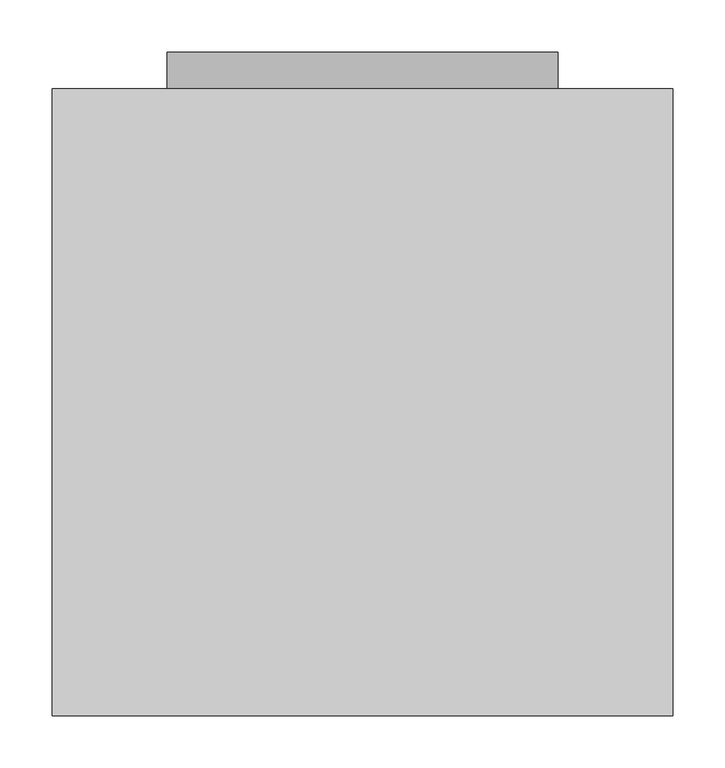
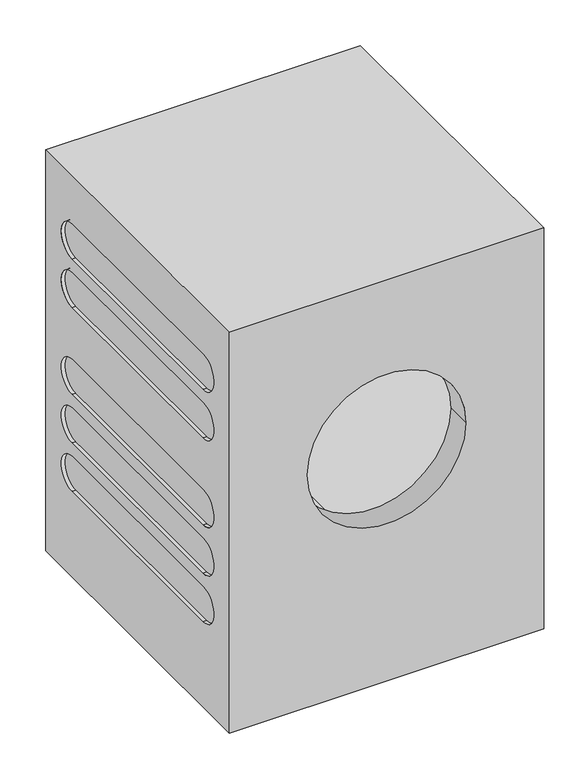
"""IFC4 building model written with IfcOpenShell, lengths in millimetres: proxy geometry, 11169830_ZER_PWM507DV_LWSpecial : 51507291_ZER_11169830_PWM507DV_LWSpecial."""

from ifc_helpers import new_model, si_unit, point, frame, frame_2d, origin, place, context, project, spatial, polyline, circle_curve, trimmed, segment, composite_curve, outline, extrude, source, transform, mapped, element, save
from ifc_brep_helpers import plane_surface, revolved_surface, advanced_brep


def specialty_equipment_5b245b4f(model_context):
    return source(origin(), model_context, "Body", "SolidModel", [
        advanced_brep(
        [(298.0, -35.0, 816.0), (298.0, -35.0, 13.5), (-298.0, -35.0, 13.5), (-298.0, -35.0, 816.0), (215.0, -35.0, 130.0), (119.0, -35.0, 130.0), (119.0, -35.0, 80.0), (215.0, -35.0, 80.0), (298.0, -637.0, 816.0), (-298.0, -637.0, 816.0), (-298.0, -637.0, 13.5), (298.0, -637.0, 13.5), (150.0, -637.0, 478.0), (-150.0, -637.0, 478.0), (298.0, -552.0, 650.0), (298.0, -552.0, 720.0), (298.0, -122.0, 720.0), (298.0, -122.0, 650.0), (298.0, -552.0, 553.0), (298.0, -552.0, 623.0), (298.0, -122.0, 623.0), (298.0, -122.0, 553.0), (298.0, -552.0, 282.0), (298.0, -552.0, 352.0), (298.0, -122.0, 352.0), (298.0, -122.0, 282.0), (298.0, -552.0, 185.0), (298.0, -552.0, 255.0), (298.0, -122.0, 255.0), (298.0, -122.0, 185.0), (298.0, -552.0, 379.0), (298.0, -552.0, 449.0), (298.0, -122.0, 449.0), (298.0, -122.0, 379.0), (-298.0, -552.0, 720.0), (-298.0, -552.0, 650.0), (-298.0, -122.0, 650.0), (-298.0, -122.0, 720.0), (-298.0, -552.0, 623.0), (-298.0, -552.0, 553.0), (-298.0, -122.0, 553.0), (-298.0, -122.0, 623.0), (-298.0, -552.0, 352.0), (-298.0, -552.0, 282.0), (-298.0, -122.0, 282.0), (-298.0, -122.0, 352.0), (-298.0, -552.0, 255.0), (-298.0, -552.0, 185.0), (-298.0, -122.0, 185.0), (-298.0, -122.0, 255.0), (-298.0, -552.0, 379.0), (-298.0, -122.0, 379.0), (-298.0, -122.0, 449.0), (-298.0, -552.0, 449.0), (-150.0, -589.0, 478.0), (150.0, -589.0, 478.0), (0.0, -200.0, 234.0), (0.0, -200.0, 722.0), (0.0, -589.0, 234.0), (0.0, -589.0, 722.0), (-291.0, -552.0, 720.0), (-291.0, -122.0, 720.0), (-291.0, -122.0, 650.0), (-291.0, -552.0, 650.0), (-291.0, -552.0, 623.0), (-291.0, -122.0, 623.0), (-291.0, -122.0, 553.0), (-291.0, -552.0, 553.0), (-291.0, -552.0, 352.0), (-291.0, -122.0, 352.0), (-291.0, -122.0, 282.0), (-291.0, -552.0, 282.0), (-291.0, -552.0, 255.0), (-291.0, -122.0, 255.0), (-291.0, -122.0, 185.0), (-291.0, -552.0, 185.0), (291.0, -552.0, 720.0), (291.0, -552.0, 650.0), (291.0, -122.0, 650.0), (291.0, -122.0, 720.0), (291.0, -552.0, 623.0), (291.0, -552.0, 553.0), (291.0, -122.0, 553.0), (291.0, -122.0, 623.0), (291.0, -552.0, 352.0), (291.0, -552.0, 282.0), (291.0, -122.0, 282.0), (291.0, -122.0, 352.0), (291.0, -552.0, 255.0), (291.0, -552.0, 185.0), (291.0, -122.0, 185.0), (291.0, -122.0, 255.0), (-291.0, -552.0, 449.0), (-291.0, -122.0, 449.0), (-291.0, -122.0, 379.0), (-291.0, -552.0, 379.0), (291.0, -552.0, 449.0), (291.0, -552.0, 379.0), (291.0, -122.0, 379.0), (291.0, -122.0, 449.0), (119.0, -152.0, 130.0), (215.0, -152.0, 130.0), (215.0, -152.0, 80.0), (119.0, -152.0, 80.0)],
        [
            (0, 1),
            (1, 2),
            (2, 3),
            (3, 0),
            (4, 5),
            (5, 6),
            (6, 7),
            (7, 4),
            (8, 9),
            (9, 10),
            (10, 11),
            (11, 8),
            (12, 13, circle_curve(frame((0.0, -637.0, 478.0), z_axis=(0.0, 1.0, 0.0), x_axis=(-1.0, 0.0, 0.0)), 150.0)),
            (13, 12, circle_curve(frame((0.0, -637.0, 478.0), z_axis=(0.0, 1.0, 0.0), x_axis=(-1.0, 0.0, 0.0)), 150.0)),
            (0, 8),
            (11, 1),
            (14, 15, circle_curve(frame((298.0, -552.0, 685.0), z_axis=(-1.0, 0.0, 0.0), x_axis=(0.0, 1.0, 0.0)), 35.0)),
            (15, 16),
            (16, 17, circle_curve(frame((298.0, -122.0, 685.0), z_axis=(-1.0, 0.0, 0.0), x_axis=(0.0, 1.0, 0.0)), 35.0)),
            (17, 14),
            (18, 19, circle_curve(frame((298.0, -552.0, 588.0), z_axis=(-1.0, 0.0, 0.0), x_axis=(0.0, 1.0, 0.0)), 35.0)),
            (19, 20),
            (20, 21, circle_curve(frame((298.0, -122.0, 588.0), z_axis=(-1.0, 0.0, 0.0), x_axis=(0.0, 1.0, 0.0)), 35.0)),
            (21, 18),
            (22, 23, circle_curve(frame((298.0, -552.0, 317.0), z_axis=(-1.0, 0.0, 0.0), x_axis=(0.0, 1.0, 0.0)), 35.0)),
            (23, 24),
            (24, 25, circle_curve(frame((298.0, -122.0, 317.0), z_axis=(-1.0, 0.0, 0.0), x_axis=(0.0, 1.0, 0.0)), 35.0)),
            (25, 22),
            (26, 27, circle_curve(frame((298.0, -552.0, 220.0), z_axis=(-1.0, 0.0, 0.0), x_axis=(0.0, 1.0, 0.0)), 35.0)),
            (27, 28),
            (28, 29, circle_curve(frame((298.0, -122.0, 220.0), z_axis=(-1.0, 0.0, 0.0), x_axis=(0.0, 1.0, 0.0)), 35.0)),
            (29, 26),
            (30, 31, circle_curve(frame((298.0, -552.0, 414.0), z_axis=(-1.0, 0.0, 0.0), x_axis=(0.0, 1.0, 0.0)), 35.0)),
            (31, 32),
            (32, 33, circle_curve(frame((298.0, -122.0, 414.0), z_axis=(-1.0, 0.0, 0.0), x_axis=(0.0, 1.0, 0.0)), 35.0)),
            (33, 30),
            (10, 2),
            (9, 3),
            (34, 35, circle_curve(frame((-298.0, -552.0, 685.0), z_axis=(1.0, 0.0, 0.0), x_axis=(0.0, 1.0, 0.0)), 35.0)),
            (35, 36),
            (36, 37, circle_curve(frame((-298.0, -122.0, 685.0), z_axis=(1.0, 0.0, 0.0), x_axis=(0.0, 1.0, 0.0)), 35.0)),
            (37, 34),
            (38, 39, circle_curve(frame((-298.0, -552.0, 588.0), z_axis=(1.0, 0.0, 0.0), x_axis=(0.0, 1.0, 0.0)), 35.0)),
            (39, 40),
            (40, 41, circle_curve(frame((-298.0, -122.0, 588.0), z_axis=(1.0, 0.0, 0.0), x_axis=(0.0, 1.0, 0.0)), 35.0)),
            (41, 38),
            (42, 43, circle_curve(frame((-298.0, -552.0, 317.0), z_axis=(1.0, 0.0, 0.0), x_axis=(0.0, 1.0, 0.0)), 35.0)),
            (43, 44),
            (44, 45, circle_curve(frame((-298.0, -122.0, 317.0), z_axis=(1.0, 0.0, 0.0), x_axis=(0.0, 1.0, 0.0)), 35.0)),
            (45, 42),
            (46, 47, circle_curve(frame((-298.0, -552.0, 220.0), z_axis=(1.0, 0.0, 0.0), x_axis=(0.0, 1.0, 0.0)), 35.0)),
            (47, 48),
            (48, 49, circle_curve(frame((-298.0, -122.0, 220.0), z_axis=(1.0, 0.0, 0.0), x_axis=(0.0, 1.0, 0.0)), 35.0)),
            (49, 46),
            (50, 51),
            (51, 52, circle_curve(frame((-298.0, -122.0, 414.0), z_axis=(1.0, 0.0, 0.0), x_axis=(0.0, 1.0, 0.0)), 35.0)),
            (52, 53),
            (53, 50, circle_curve(frame((-298.0, -552.0, 414.0), z_axis=(1.0, 0.0, 0.0), x_axis=(0.0, 1.0, 0.0)), 35.0)),
            (54, 13),
            (12, 55),
            (55, 54, circle_curve(frame((0.0, -589.0, 478.0), z_axis=(0.0, 1.0, 0.0), x_axis=(-1.0, 0.0, 0.0)), 150.0)),
            (54, 55, circle_curve(frame((0.0, -589.0, 478.0), z_axis=(0.0, 1.0, 0.0), x_axis=(-1.0, 0.0, 0.0)), 150.0)),
            (56, 57, circle_curve(frame((0.0, -200.0, 478.0), z_axis=(0.0, -1.0, 0.0), x_axis=(0.0, 0.0, 1.0)), 244.0)),
            (57, 56, circle_curve(frame((0.0, -200.0, 478.0), z_axis=(0.0, -1.0, 0.0), x_axis=(0.0, 0.0, 1.0)), 244.0)),
            (58, 59, circle_curve(frame((0.0, -589.0, 478.0), z_axis=(0.0, 1.0, 0.0), x_axis=(0.0, 0.0, 1.0)), 244.0)),
            (59, 58, circle_curve(frame((0.0, -589.0, 478.0), z_axis=(0.0, 1.0, 0.0), x_axis=(0.0, 0.0, 1.0)), 244.0)),
            (56, 58),
            (59, 57),
            (60, 61),
            (61, 62, circle_curve(frame((-291.0, -122.0, 685.0), z_axis=(-1.0, 0.0, 0.0), x_axis=(0.0, 1.0, 0.0)), 35.0)),
            (62, 63),
            (63, 60, circle_curve(frame((-291.0, -552.0, 685.0), z_axis=(-1.0, 0.0, 0.0), x_axis=(0.0, 1.0, 0.0)), 35.0)),
            (64, 65),
            (65, 66, circle_curve(frame((-291.0, -122.0, 588.0), z_axis=(-1.0, 0.0, 0.0), x_axis=(0.0, 1.0, 0.0)), 35.0)),
            (66, 67),
            (67, 64, circle_curve(frame((-291.0, -552.0, 588.0), z_axis=(-1.0, 0.0, 0.0), x_axis=(0.0, 1.0, 0.0)), 35.0)),
            (68, 69),
            (69, 70, circle_curve(frame((-291.0, -122.0, 317.0), z_axis=(-1.0, 0.0, 0.0), x_axis=(0.0, 1.0, 0.0)), 35.0)),
            (70, 71),
            (71, 68, circle_curve(frame((-291.0, -552.0, 317.0), z_axis=(-1.0, 0.0, 0.0), x_axis=(0.0, 1.0, 0.0)), 35.0)),
            (72, 73),
            (73, 74, circle_curve(frame((-291.0, -122.0, 220.0), z_axis=(-1.0, 0.0, 0.0), x_axis=(0.0, 1.0, 0.0)), 35.0)),
            (74, 75),
            (75, 72, circle_curve(frame((-291.0, -552.0, 220.0), z_axis=(-1.0, 0.0, 0.0), x_axis=(0.0, 1.0, 0.0)), 35.0)),
            (63, 35),
            (34, 60),
            (62, 36),
            (61, 37),
            (67, 39),
            (38, 64),
            (66, 40),
            (65, 41),
            (71, 43),
            (42, 68),
            (70, 44),
            (69, 45),
            (75, 47),
            (46, 72),
            (74, 48),
            (73, 49),
            (76, 77, circle_curve(frame((291.0, -552.0, 685.0), z_axis=(1.0, 0.0, 0.0), x_axis=(0.0, 1.0, 0.0)), 35.0)),
            (77, 78),
            (78, 79, circle_curve(frame((291.0, -122.0, 685.0), z_axis=(1.0, 0.0, 0.0), x_axis=(0.0, 1.0, 0.0)), 35.0)),
            (79, 76),
            (80, 81, circle_curve(frame((291.0, -552.0, 588.0), z_axis=(1.0, 0.0, 0.0), x_axis=(0.0, 1.0, 0.0)), 35.0)),
            (81, 82),
            (82, 83, circle_curve(frame((291.0, -122.0, 588.0), z_axis=(1.0, 0.0, 0.0), x_axis=(0.0, 1.0, 0.0)), 35.0)),
            (83, 80),
            (84, 85, circle_curve(frame((291.0, -552.0, 317.0), z_axis=(1.0, 0.0, 0.0), x_axis=(0.0, 1.0, 0.0)), 35.0)),
            (85, 86),
            (86, 87, circle_curve(frame((291.0, -122.0, 317.0), z_axis=(1.0, 0.0, 0.0), x_axis=(0.0, 1.0, 0.0)), 35.0)),
            (87, 84),
            (88, 89, circle_curve(frame((291.0, -552.0, 220.0), z_axis=(1.0, 0.0, 0.0), x_axis=(0.0, 1.0, 0.0)), 35.0)),
            (89, 90),
            (90, 91, circle_curve(frame((291.0, -122.0, 220.0), z_axis=(1.0, 0.0, 0.0), x_axis=(0.0, 1.0, 0.0)), 35.0)),
            (91, 88),
            (76, 15),
            (14, 77),
            (17, 78),
            (16, 79),
            (80, 19),
            (18, 81),
            (21, 82),
            (20, 83),
            (84, 23),
            (22, 85),
            (25, 86),
            (24, 87),
            (88, 27),
            (26, 89),
            (29, 90),
            (28, 91),
            (92, 93),
            (93, 94, circle_curve(frame((-291.0, -122.0, 414.0), z_axis=(-1.0, 0.0, 0.0), x_axis=(0.0, 1.0, 0.0)), 35.0)),
            (94, 95),
            (95, 92, circle_curve(frame((-291.0, -552.0, 414.0), z_axis=(-1.0, 0.0, 0.0), x_axis=(0.0, 1.0, 0.0)), 35.0)),
            (94, 51),
            (50, 95),
            (92, 53),
            (52, 93),
            (96, 97, circle_curve(frame((291.0, -552.0, 414.0), z_axis=(1.0, 0.0, 0.0), x_axis=(0.0, 1.0, 0.0)), 35.0)),
            (97, 98),
            (98, 99, circle_curve(frame((291.0, -122.0, 414.0), z_axis=(1.0, 0.0, 0.0), x_axis=(0.0, 1.0, 0.0)), 35.0)),
            (99, 96),
            (96, 31),
            (30, 97),
            (33, 98),
            (32, 99),
            (100, 101),
            (101, 102),
            (102, 103),
            (103, 100),
            (100, 5),
            (4, 101),
            (7, 102),
            (6, 103),
        ],
        [
            plane_surface(frame((298.0, -35.0, 816.0), z_axis=(0.0, 1.0, 0.0), x_axis=(0.0, 0.0, -1.0))),
            plane_surface(frame((298.0, -637.0, 816.0), z_axis=(0.0, -1.0, 0.0), x_axis=(0.0, 0.0, 1.0))),
            plane_surface(frame((298.0, -35.0, 816.0), z_axis=(1.0, 0.0, 0.0), x_axis=(0.0, -1.0, 0.0))),
            plane_surface(frame((298.0, -35.0, 13.5), z_axis=(0.0, 0.0, -1.0), x_axis=(0.0, -1.0, 0.0))),
            plane_surface(frame((-298.0, -35.0, 13.5), z_axis=(-1.0, 0.0, 0.0), x_axis=(0.0, -1.0, 0.0))),
            plane_surface(frame((-298.0, -35.0, 816.0), z_axis=(0.0, 0.0, 1.0), x_axis=(0.0, -1.0, 0.0))),
            revolved_surface(polyline([(-150.0, -589.0, 478.0), (-150.0, -637.0, 478.0)]), (0.0, -637.0, 478.0), (0.0, 1.0, 0.0)),
            plane_surface(frame((0.0, -200.0, 722.0), z_axis=(0.0, -1.0, 0.0), x_axis=(1.0, 0.0, 0.0))),
            plane_surface(frame((0.0, -589.0, 722.0), z_axis=(0.0, 1.0, 0.0), x_axis=(-1.0, 0.0, 0.0))),
            revolved_surface(polyline([(0.0, -589.0, 722.0), (0.0, -200.0, 722.0)]), (0.0, -200.0, 478.0), (0.0, -1.0, 0.0)),
            plane_surface(frame((-291.0, -517.0, 685.0), z_axis=(-1.0, 0.0, 0.0), x_axis=(0.0, 0.0, 1.0))),
            revolved_surface(polyline([(-291.0, -517.0, 685.0), (-298.0, -517.0, 685.0)]), (-298.0, -552.0, 685.0), (1.0, 0.0, 0.0)),
            plane_surface(frame((-291.0, -552.0, 650.0), z_axis=(0.0, 0.0, 1.0), x_axis=(-1.0, 0.0, 0.0))),
            revolved_surface(polyline([(-291.0, -87.0, 685.0), (-298.0, -87.0, 685.0)]), (-298.0, -122.0, 685.0), (1.0, 0.0, 0.0)),
            plane_surface(frame((-291.0, -122.0, 720.0), z_axis=(0.0, 0.0, -1.0), x_axis=(-1.0, 0.0, 0.0))),
            revolved_surface(polyline([(-291.0, -517.0, 588.0), (-298.0, -517.0, 588.0)]), (-298.0, -552.0, 588.0), (1.0, 0.0, 0.0)),
            plane_surface(frame((-291.0, -552.0, 553.0), z_axis=(0.0, 0.0, 1.0), x_axis=(-1.0, 0.0, 0.0))),
            revolved_surface(polyline([(-291.0, -87.0, 588.0), (-298.0, -87.0, 588.0)]), (-298.0, -122.0, 588.0), (1.0, 0.0, 0.0)),
            plane_surface(frame((-291.0, -122.0, 623.0), z_axis=(0.0, 0.0, -1.0), x_axis=(-1.0, 0.0, 0.0))),
            revolved_surface(polyline([(-291.0, -517.0, 317.0), (-298.0, -517.0, 317.0)]), (-298.0, -552.0, 317.0), (1.0, 0.0, 0.0)),
            plane_surface(frame((-291.0, -552.0, 282.0), z_axis=(0.0, 0.0, 1.0), x_axis=(-1.0, 0.0, 0.0))),
            revolved_surface(polyline([(-291.0, -87.0, 317.0), (-298.0, -87.0, 317.0)]), (-298.0, -122.0, 317.0), (1.0, 0.0, 0.0)),
            plane_surface(frame((-291.0, -122.0, 352.0), z_axis=(0.0, 0.0, -1.0), x_axis=(-1.0, 0.0, 0.0))),
            revolved_surface(polyline([(-291.0, -517.0, 220.0), (-298.0, -517.0, 220.0)]), (-298.0, -552.0, 220.0), (1.0, 0.0, 0.0)),
            plane_surface(frame((-291.0, -552.0, 185.0), z_axis=(0.0, 0.0, 1.0), x_axis=(-1.0, 0.0, 0.0))),
            revolved_surface(polyline([(-291.0, -87.0, 220.0), (-298.0, -87.0, 220.0)]), (-298.0, -122.0, 220.0), (1.0, 0.0, 0.0)),
            plane_surface(frame((-291.0, -122.0, 255.0), z_axis=(0.0, 0.0, -1.0), x_axis=(-1.0, 0.0, 0.0))),
            plane_surface(frame((291.0, -517.0, 685.0), z_axis=(1.0, 0.0, 0.0), x_axis=(0.0, 0.0, -1.0))),
            revolved_surface(polyline([(298.0, -517.0, 685.0), (291.0, -517.0, 685.0)]), (291.0, -552.0, 685.0), (1.0, 0.0, 0.0)),
            plane_surface(frame((298.0, -552.0, 650.0), z_axis=(0.0, 0.0, 1.0), x_axis=(-1.0, 0.0, 0.0))),
            revolved_surface(polyline([(298.0, -87.0, 685.0), (291.0, -87.0, 685.0)]), (291.0, -122.0, 685.0), (1.0, 0.0, 0.0)),
            plane_surface(frame((298.0, -122.0, 720.0), z_axis=(0.0, 0.0, -1.0), x_axis=(-1.0, 0.0, 0.0))),
            revolved_surface(polyline([(298.0, -517.0, 588.0), (291.0, -517.0, 588.0)]), (298.0, -552.0, 588.0), (1.0, 0.0, 0.0)),
            plane_surface(frame((298.0, -552.0, 553.0), z_axis=(0.0, 0.0, 1.0), x_axis=(-1.0, 0.0, 0.0))),
            revolved_surface(polyline([(298.0, -87.0, 588.0), (291.0, -87.0, 588.0)]), (298.0, -122.0, 588.0), (1.0, 0.0, 0.0)),
            plane_surface(frame((298.0, -122.0, 623.0), z_axis=(0.0, 0.0, -1.0), x_axis=(-1.0, 0.0, 0.0))),
            revolved_surface(polyline([(298.0, -517.0, 317.0), (291.0, -517.0, 317.0)]), (298.0, -552.0, 317.0), (1.0, 0.0, 0.0)),
            plane_surface(frame((298.0, -552.0, 282.0), z_axis=(0.0, 0.0, 1.0), x_axis=(-1.0, 0.0, 0.0))),
            revolved_surface(polyline([(298.0, -87.0, 317.0), (291.0, -87.0, 317.0)]), (298.0, -122.0, 317.0), (1.0, 0.0, 0.0)),
            plane_surface(frame((298.0, -122.0, 352.0), z_axis=(0.0, 0.0, -1.0), x_axis=(-1.0, 0.0, 0.0))),
            revolved_surface(polyline([(298.0, -517.0, 220.0), (291.0, -517.0, 220.0)]), (298.0, -552.0, 220.0), (1.0, 0.0, 0.0)),
            plane_surface(frame((298.0, -552.0, 185.0), z_axis=(0.0, 0.0, 1.0), x_axis=(-1.0, 0.0, 0.0))),
            revolved_surface(polyline([(298.0, -87.0, 220.0), (291.0, -87.0, 220.0)]), (298.0, -122.0, 220.0), (1.0, 0.0, 0.0)),
            plane_surface(frame((298.0, -122.0, 255.0), z_axis=(0.0, 0.0, -1.0), x_axis=(-1.0, 0.0, 0.0))),
            plane_surface(frame((-291.0, -517.0, 414.0), z_axis=(-1.0, 0.0, 0.0), x_axis=(0.0, 0.0, 1.0))),
            plane_surface(frame((-291.0, -552.0, 379.0), z_axis=(0.0, 0.0, 1.0), x_axis=(-1.0, 0.0, 0.0))),
            plane_surface(frame((-291.0, -122.0, 449.0), z_axis=(0.0, 0.0, -1.0), x_axis=(-1.0, 0.0, 0.0))),
            revolved_surface(polyline([(-291.0, -517.0, 414.0), (-298.0, -517.0, 414.0)]), (-298.0, -552.0, 414.0), (1.0, 0.0, 0.0)),
            revolved_surface(polyline([(-291.0, -87.0, 414.0), (-298.0, -87.0, 414.0)]), (-298.0, -122.0, 414.0), (1.0, 0.0, 0.0)),
            plane_surface(frame((291.0, -517.0, 414.0), z_axis=(1.0, 0.0, 0.0), x_axis=(0.0, 0.0, -1.0))),
            revolved_surface(polyline([(298.0, -517.0, 414.0), (291.0, -517.0, 414.0)]), (291.0, -552.0, 414.0), (1.0, 0.0, 0.0)),
            plane_surface(frame((298.0, -552.0, 379.0), z_axis=(0.0, 0.0, 1.0), x_axis=(-1.0, 0.0, 0.0))),
            revolved_surface(polyline([(298.0, -87.0, 414.0), (291.0, -87.0, 414.0)]), (291.0, -122.0, 414.0), (1.0, 0.0, 0.0)),
            plane_surface(frame((298.0, -122.0, 449.0), z_axis=(0.0, 0.0, -1.0), x_axis=(-1.0, 0.0, 0.0))),
            plane_surface(frame((215.0, -152.0, 130.0), z_axis=(0.0, 1.0, 0.0), x_axis=(-1.0, 0.0, 0.0))),
            plane_surface(frame((119.0, -35.0, 130.0), z_axis=(0.0, 0.0, -1.0), x_axis=(0.0, -1.0, 0.0))),
            plane_surface(frame((215.0, -35.0, 130.0), z_axis=(-1.0, 0.0, 0.0), x_axis=(0.0, -1.0, 0.0))),
            plane_surface(frame((215.0, -35.0, 80.0), z_axis=(0.0, 0.0, 1.0), x_axis=(0.0, -1.0, 0.0))),
            plane_surface(frame((119.0, -35.0, 80.0), z_axis=(1.0, 0.0, 0.0), x_axis=(0.0, -1.0, 0.0))),
        ],
        [
            (0, [[1, 2, 3, 4], [5, 6, 7, 8]]),
            (1, [[9, 10, 11, 12], [13, 14]]),
            (2, [[-1, 15, -12, 16], [17, 18, 19, 20], [21, 22, 23, 24], [25, 26, 27, 28], [29, 30, 31, 32], [33, 34, 35, 36]]),
            (3, [[-2, -16, -11, 37]]),
            (4, [[-3, -37, -10, 38], [39, 40, 41, 42], [43, 44, 45, 46], [47, 48, 49, 50], [51, 52, 53, 54], [55, 56, 57, 58]]),
            (5, [[-4, -38, -9, -15]]),
            (6, [[59, -13, 60, 61]]),
            (6, [[-59, 62, -60, -14]]),
            (7, [[63, 64]]),
            (8, [[65, 66], [-61, -62]]),
            (9, [[-63, 67, -66, 68]]),
            (9, [[-64, -68, -65, -67]]),
            (10, [[69, 70, 71, 72]]),
            (10, [[73, 74, 75, 76]]),
            (10, [[77, 78, 79, 80]]),
            (10, [[81, 82, 83, 84]]),
            (11, [[-72, 85, -39, 86]]),
            (12, [[-71, 87, -40, -85]]),
            (13, [[-70, 88, -41, -87]]),
            (14, [[-69, -86, -42, -88]]),
            (15, [[-76, 89, -43, 90]]),
            (16, [[-75, 91, -44, -89]]),
            (17, [[-74, 92, -45, -91]]),
            (18, [[-73, -90, -46, -92]]),
            (19, [[-80, 93, -47, 94]]),
            (20, [[-79, 95, -48, -93]]),
            (21, [[-78, 96, -49, -95]]),
            (22, [[-77, -94, -50, -96]]),
            (23, [[-84, 97, -51, 98]]),
            (24, [[-83, 99, -52, -97]]),
            (25, [[-82, 100, -53, -99]]),
            (26, [[-81, -98, -54, -100]]),
            (27, [[101, 102, 103, 104]]),
            (27, [[105, 106, 107, 108]]),
            (27, [[109, 110, 111, 112]]),
            (27, [[113, 114, 115, 116]]),
            (28, [[-101, 117, -17, 118]]),
            (29, [[-102, -118, -20, 119]]),
            (30, [[-103, -119, -19, 120]]),
            (31, [[-104, -120, -18, -117]]),
            (32, [[-105, 121, -21, 122]]),
            (33, [[-106, -122, -24, 123]]),
            (34, [[-107, -123, -23, 124]]),
            (35, [[-108, -124, -22, -121]]),
            (36, [[-109, 125, -25, 126]]),
            (37, [[-110, -126, -28, 127]]),
            (38, [[-111, -127, -27, 128]]),
            (39, [[-112, -128, -26, -125]]),
            (40, [[-113, 129, -29, 130]]),
            (41, [[-114, -130, -32, 131]]),
            (42, [[-115, -131, -31, 132]]),
            (43, [[-116, -132, -30, -129]]),
            (44, [[133, 134, 135, 136]]),
            (45, [[-135, 137, -55, 138]]),
            (46, [[-133, 139, -57, 140]]),
            (47, [[-136, -138, -58, -139]]),
            (48, [[-134, -140, -56, -137]]),
            (49, [[141, 142, 143, 144]]),
            (50, [[-141, 145, -33, 146]]),
            (51, [[-142, -146, -36, 147]]),
            (52, [[-143, -147, -35, 148]]),
            (53, [[-144, -148, -34, -145]]),
            (54, [[149, 150, 151, 152]]),
            (55, [[-149, 153, -5, 154]]),
            (56, [[-150, -154, -8, 155]]),
            (57, [[-151, -155, -7, 156]]),
            (58, [[-152, -156, -6, -153]]),
        ],
    ),
        extrude(outline(composite_curve([segment(trimmed(circle_curve(frame_2d((478.0, 0.0)), 188.0), [point((452.0, 186.1934478))], [point((452.0, -186.1934478))], False, "CARTESIAN"), True, "CONTINUOUS"), segment(polyline([(452.0, -186.1934478), (124.0, -72.7255113)]), True, "CONTINUOUS"), segment(trimmed(circle_curve(frame_2d((168.0, 0.0)), 85.0), [point((124.0, -72.7255113))], [point((124.0, 72.7255113))], False, "CARTESIAN"), True, "CONTINUOUS"), segment(polyline([(124.0, 72.7255113), (452.0, 186.1934478)]), True, "CONTINUOUS")], self_intersect=False)), frame((0.0, -35.0, 0.0), z_axis=(0.0, 1.0, 0.0), x_axis=(0.0, 0.0, 1.0)), (0.0, 0.0, 1.0), 35.0),
    ])


if __name__ == "__main__":
    model = new_model("IFC4")
    model_context = context("Model", 3, world=origin())
    ifc_project = project(units=[si_unit("LENGTHUNIT", "METRE", prefix="MILLI")], contexts=[model_context])
    site = spatial("IfcSite", under=ifc_project)
    building = spatial("IfcBuilding", under=site)
    placement = place(None, origin())
    specialty_equipment_shape = specialty_equipment_5b245b4f(model_context)
    element("IfcBuildingElementProxy", 1, Name="11169830_ZER_PWM507DV_LWSpecial : 51507291_ZER_11169830_PWM507DV_LWSpecial", ObjectType="11169830_ZER_PWM507DV_LWSpecial : 51507291_ZER_11169830_PWM507DV_LWSpecial", at=placement, inside=building, context=model_context, shape_type="MappedRepresentation", body=[
        mapped(specialty_equipment_shape, transform((0.0, 0.0, 0.0), x_axis=(1.0, 0.0, 0.0), y_axis=(0.0, 1.0, 0.0), z_axis=(0.0, 0.0, 1.0))),
    ])
    save(model, "model.ifc")
